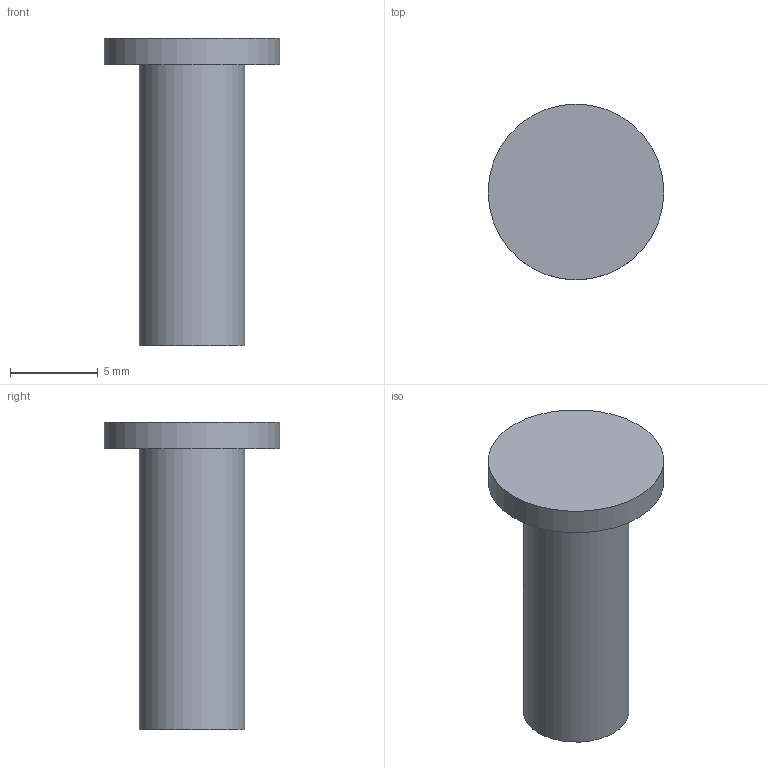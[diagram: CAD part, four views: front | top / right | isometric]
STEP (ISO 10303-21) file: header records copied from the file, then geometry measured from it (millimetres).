
FILE_DESCRIPTION((''),'2;1');
FILE_NAME('\\Dtp_2\share\CAD-\ボルトナット\ECSS-06-16.stp','2015-09-08T14:37:26',('AMS8'),(''),'Autodesk Inventor 2008','Autodesk Inventor 2008','');
FILE_SCHEMA(('AUTOMOTIVE_DESIGN { 1 0 10303 214 1 1 1 1 }'));
Length unit declared in the file: millimetre
Products named in the file (1): ECSS-06-16
Bounding box: 10 x 10 x 17.5 mm (x, y, z)
Volume: 570.2 mm3; surface area: 505.8 mm2
Topology: 1 solids, 1 shells, 5 faces, 6 edges, 4 vertices
Faces by surface type: plane 3, cylinder 2
Full cylindrical faces by diameter (mm): 6 x1, 10 x1
Entity records: 120 total; most frequent: DIRECTION 20, CARTESIAN_POINT 14, AXIS2_PLACEMENT_3D 10, ORIENTED_EDGE 8, EDGE_LOOP 8, FACE_OUTER_BOUND 5, ADVANCED_FACE 5, VERTEX_POINT 4
